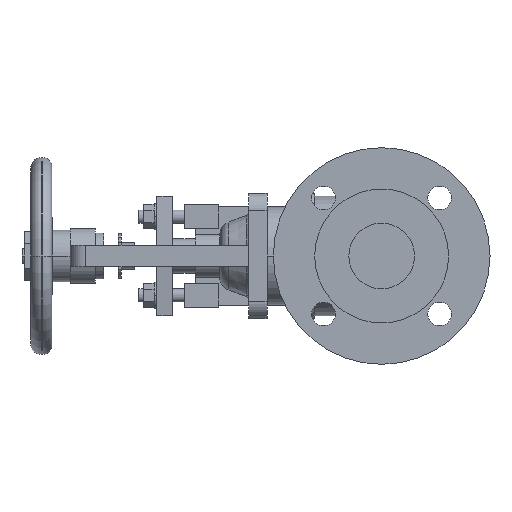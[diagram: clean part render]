
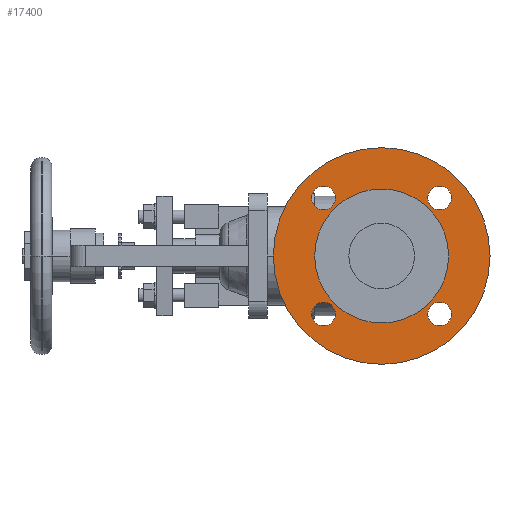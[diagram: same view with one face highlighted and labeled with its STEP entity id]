
A CAD part, left-side view. The second image highlights one B-rep face of the part: STEP entity #17400.
In plain terms, the highlighted planar face has unit normal (-1, 0, 0).
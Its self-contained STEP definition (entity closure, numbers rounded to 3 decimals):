
#8460=CARTESIAN_POINT('',(3.,0.,-82.5));
#8470=VERTEX_POINT('',#8460);
#8500=CARTESIAN_POINT('',(3.,0.,0.));
#8510=DIRECTION('',(1.,0.,0.));
#8520=DIRECTION('',(0.,0.,-1.));
#8530=AXIS2_PLACEMENT_3D('',#8500,#8510,#8520);
#8540=CIRCLE('',#8530,82.5);
#8550=CARTESIAN_POINT('',(3.,0.,82.5));
#8560=VERTEX_POINT('',#8550);
#8570=EDGE_CURVE('',#8560,#8470,#8540,.T.);
#8950=CARTESIAN_POINT('',(3.,44.194,-53.194));
#8960=VERTEX_POINT('',#8950);
#8990=CARTESIAN_POINT('',(3.,44.194,-44.194));
#9000=DIRECTION('',(-1.,0.,0.));
#9010=DIRECTION('',(0.,0.,-1.));
#9020=AXIS2_PLACEMENT_3D('',#8990,#9000,#9010);
#9030=CIRCLE('',#9020,9.);
#9040=CARTESIAN_POINT('',(3.,44.194,-35.194));
#9050=VERTEX_POINT('',#9040);
#9060=EDGE_CURVE('',#9050,#8960,#9030,.T.);
#9440=CARTESIAN_POINT('',(3.,-44.194,-35.194));
#9450=VERTEX_POINT('',#9440);
#9610=CARTESIAN_POINT('',(3.,-44.194,-53.194));
#9620=VERTEX_POINT('',#9610);
#9650=CARTESIAN_POINT('',(3.,-44.194,-44.194));
#9660=DIRECTION('',(-1.,0.,0.));
#9670=DIRECTION('',(0.,0.,-1.));
#9680=AXIS2_PLACEMENT_3D('',#9650,#9660,#9670);
#9690=CIRCLE('',#9680,9.);
#9700=EDGE_CURVE('',#9450,#9620,#9690,.T.);
#9930=CARTESIAN_POINT('',(3.,-44.194,35.194));
#9940=VERTEX_POINT('',#9930);
#10100=CARTESIAN_POINT('',(3.,-44.194,53.194));
#10110=VERTEX_POINT('',#10100);
#10140=CARTESIAN_POINT('',(3.,-44.194,44.194));
#10150=DIRECTION('',(-1.,0.,0.));
#10160=DIRECTION('',(0.,0.,-1.));
#10170=AXIS2_PLACEMENT_3D('',#10140,#10150,#10160);
#10180=CIRCLE('',#10170,9.);
#10190=EDGE_CURVE('',#9940,#10110,#10180,.T.);
#10420=CARTESIAN_POINT('',(3.,44.194,35.194));
#10430=VERTEX_POINT('',#10420);
#10460=CARTESIAN_POINT('',(3.,44.194,44.194));
#10470=DIRECTION('',(-1.,0.,0.));
#10480=DIRECTION('',(0.,0.,-1.));
#10490=AXIS2_PLACEMENT_3D('',#10460,#10470,#10480);
#10500=CIRCLE('',#10490,9.);
#10510=CARTESIAN_POINT('',(3.,44.194,53.194));
#10520=VERTEX_POINT('',#10510);
#10530=EDGE_CURVE('',#10520,#10430,#10500,.T.);
#10910=CARTESIAN_POINT('',(3.,-51.,0.));
#10920=VERTEX_POINT('',#10910);
#10950=CARTESIAN_POINT('',(3.,0.,0.));
#10960=DIRECTION('',(-1.,0.,0.));
#10970=DIRECTION('',(0.,1.,0.));
#10980=AXIS2_PLACEMENT_3D('',#10950,#10960,#10970);
#10990=CIRCLE('',#10980,51.);
#11000=CARTESIAN_POINT('',(3.,51.,0.));
#11010=VERTEX_POINT('',#11000);
#11020=EDGE_CURVE('',#11010,#10920,#10990,.T.);
#17050=CARTESIAN_POINT('',(3.,66.75,0.));
#17060=DIRECTION('',(1.,0.,0.));
#17070=DIRECTION('',(0.,-1.,0.));
#17080=AXIS2_PLACEMENT_3D('',#17050,#17060,#17070);
#17090=PLANE('',#17080);
#17100=ORIENTED_EDGE('',*,*,#11020,.F.);
#17110=EDGE_CURVE('',#10920,#11010,#10990,.T.);
#17120=ORIENTED_EDGE('',*,*,#17110,.F.);
#17130=EDGE_LOOP('',(#17120,#17100));
#17140=FACE_BOUND('',#17130,.T.);
#17150=ORIENTED_EDGE('',*,*,#8570,.F.);
#17160=EDGE_CURVE('',#8470,#8560,#8540,.T.);
#17170=ORIENTED_EDGE('',*,*,#17160,.F.);
#17180=EDGE_LOOP('',(#17170,#17150));
#17190=FACE_OUTER_BOUND('',#17180,.T.);
#17200=EDGE_CURVE('',#8960,#9050,#9030,.T.);
#17210=ORIENTED_EDGE('',*,*,#17200,.F.);
#17220=ORIENTED_EDGE('',*,*,#9060,.F.);
#17230=EDGE_LOOP('',(#17220,#17210));
#17240=FACE_BOUND('',#17230,.T.);
#17250=EDGE_CURVE('',#9620,#9450,#9690,.T.);
#17260=ORIENTED_EDGE('',*,*,#17250,.F.);
#17270=ORIENTED_EDGE('',*,*,#9700,.F.);
#17280=EDGE_LOOP('',(#17270,#17260));
#17290=FACE_BOUND('',#17280,.T.);
#17300=EDGE_CURVE('',#10110,#9940,#10180,.T.);
#17310=ORIENTED_EDGE('',*,*,#17300,.F.);
#17320=ORIENTED_EDGE('',*,*,#10190,.F.);
#17330=EDGE_LOOP('',(#17320,#17310));
#17340=FACE_BOUND('',#17330,.T.);
#17350=ORIENTED_EDGE('',*,*,#10530,.F.);
#17360=EDGE_CURVE('',#10430,#10520,#10500,.T.);
#17370=ORIENTED_EDGE('',*,*,#17360,.F.);
#17380=EDGE_LOOP('',(#17370,#17350));
#17390=FACE_BOUND('',#17380,.T.);
#17400=ADVANCED_FACE('',(#17140,#17190,#17240,#17290,#17340,#17390),
#17090,.F.);
